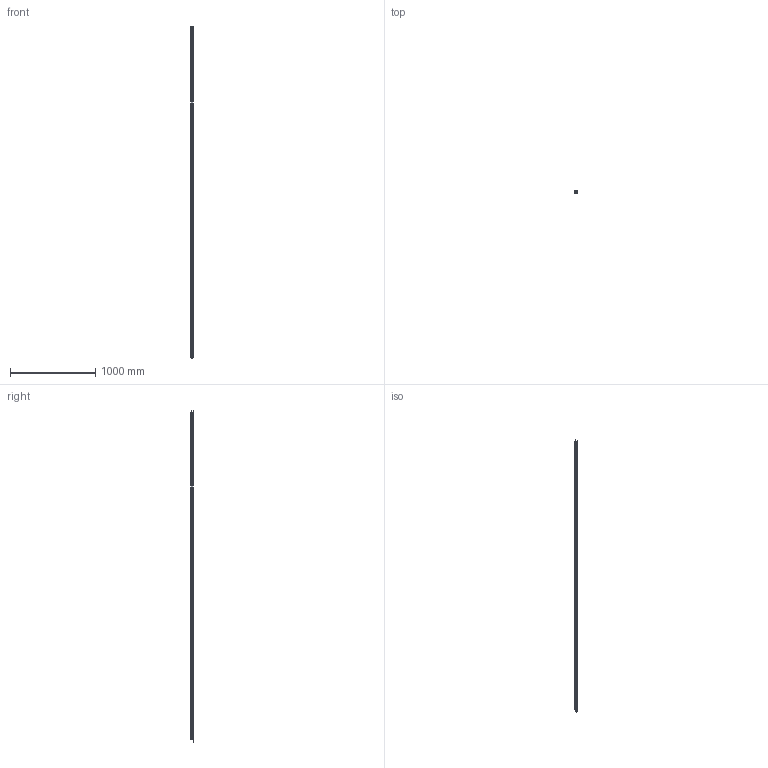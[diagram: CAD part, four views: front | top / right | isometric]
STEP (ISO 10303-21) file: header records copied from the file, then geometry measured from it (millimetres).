
FILE_DESCRIPTION (( 'STEP AP203' ), '1' );
FILE_NAME ('KT40-963800.STEP', '2022-08-26T03:33:31', ( '微软用户' ), ( '微软中国' ), 'SwSTEP 2.0', 'SolidWorks 2020', '' );
FILE_SCHEMA (( 'CONFIG_CONTROL_DESIGN' ));
Length unit declared in the file: millimetre
Products named in the file (4): KT40-963800; 光同步29X29 出线塑料盖2; 光同步29X29 出线塑料盖1; 29x29倰第
Assembly tree (3 placements, depth 2):
  KT40-963800
    29x29倰第
    光同步29X29 出线塑料盖1
    光同步29X29 出线塑料盖2
Bounding box: 30 x 34 x 3905 mm (x, y, z)
Volume: 2867220.4 mm3; surface area: 539089.1 mm2
Topology: 4 solids, 12 shells, 661 faces, 1760 edges, 1138 vertices
Faces by surface type: cylinder 299, plane 269, bspline 54, cone 39
Entity records: 30323 total; most frequent: CARTESIAN_POINT 13492, ORIENTED_EDGE 3510, DIRECTION 3352, EDGE_CURVE 1758, AXIS2_PLACEMENT_3D 1220, VERTEX_POINT 1138, VECTOR 912, LINE 912
